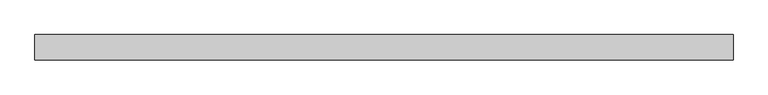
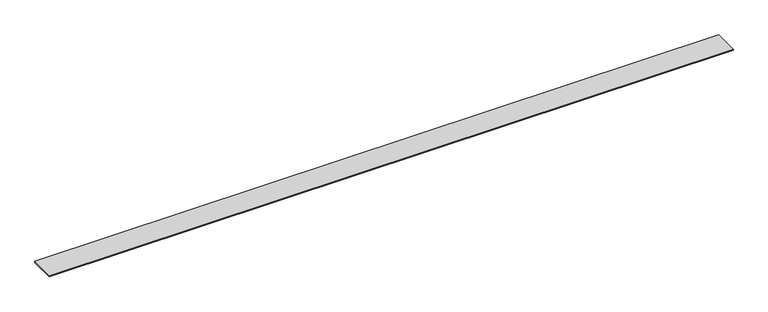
"""IFC4 building model written with IfcOpenShell, lengths in millimetres: furniture geometry, Geiger_GeigerOneCasegoods_WallTopTrimSingleSidedWall : 72Wx2.625Dx0.125H."""

from ifc_helpers import new_model, si_unit, origin, origin_with_axes, place, context, project, spatial, polyline, outline, extrude, source, transform, mapped, element, save


def furniture_f40e33f1(model_context):
    return source(origin(), model_context, "Body", "SweptSolid", [
        extrude(outline(polyline([(1828.8, 33.0), (1828.8, -33.0), (0.0, -33.0), (0.0, 33.0), (1828.8, 33.0)])), origin_with_axes(), (0.0, 0.0, 1.0), 3.2004),
    ])


if __name__ == "__main__":
    model = new_model("IFC4")
    model_context = context("Model", 3, world=origin())
    ifc_project = project(units=[si_unit("LENGTHUNIT", "METRE", prefix="MILLI")], contexts=[model_context])
    site = spatial("IfcSite", under=ifc_project)
    building = spatial("IfcBuilding", under=site)
    placement = place(None, origin())
    furniture_shape = furniture_f40e33f1(model_context)
    element("IfcFurniture", 1, ObjectType="Geiger_GeigerOneCasegoods_WallTopTrimSingleSidedWall : 72Wx2.625Dx0.125H", at=placement, inside=building, context=model_context, shape_type="MappedRepresentation", body=[
        mapped(furniture_shape, transform((0.0, 0.0, 0.0), x_axis=(1.0, 0.0, 0.0), y_axis=(0.0, 1.0, 0.0), z_axis=(0.0, 0.0, 1.0))),
    ])
    save(model, "model.ifc")
